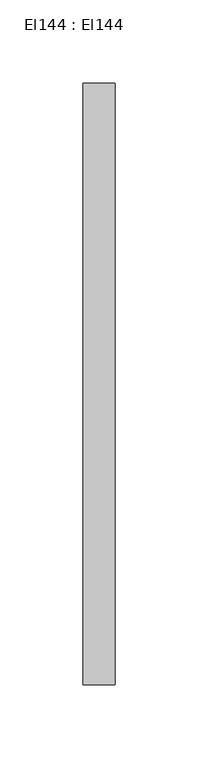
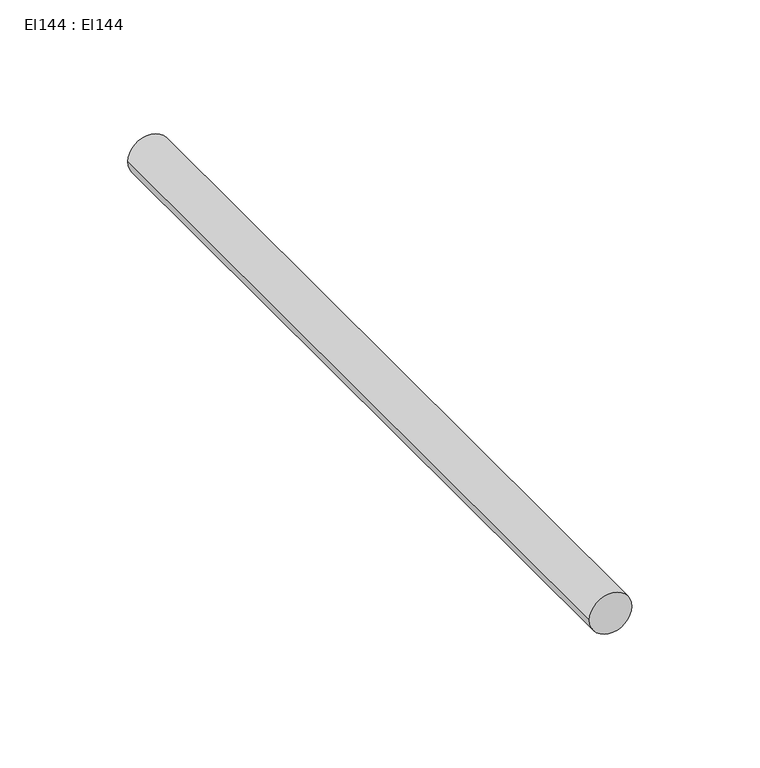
"""IFC4 building model written with IfcOpenShell, lengths in millimetres: cable carrier segment geometry, El144 : El144."""

from ifc_helpers import new_model, si_unit, point, frame, frame_2d, origin, place, context, project, spatial, circle_curve, trimmed, segment, composite_curve, outline, extrude, source, transform, mapped, element, save


def el144_el144_0ae4af96(model_context):
    return source(origin(), model_context, "Body", "SweptSolid", [
        extrude(outline(composite_curve([segment(trimmed(circle_curve(frame_2d((1200.0, 23680.0)), 9.5), [point((1200.0, 23670.5))], [point((1200.0, 23689.5))], False, "CARTESIAN"), True, "CONTINUOUS"), segment(trimmed(circle_curve(frame_2d((1200.0, 23680.0)), 9.5), [point((1200.0, 23689.5))], [point((1200.0, 23670.5))], False, "CARTESIAN"), True, "CONTINUOUS")], self_intersect=False)), frame((0.0, 9497.316, 0.0), z_axis=(0.0, 1.0, 0.0), x_axis=(0.0, 0.0, 1.0)), (0.0, 0.0, 1.0), 360.668),
    ])


if __name__ == "__main__":
    model = new_model("IFC4")
    model_context = context("Model", 3, world=origin())
    ifc_project = project(units=[si_unit("LENGTHUNIT", "METRE", prefix="MILLI")], contexts=[model_context])
    site = spatial("IfcSite", under=ifc_project)
    building = spatial("IfcBuilding", under=site)
    placement = place(None, origin())
    el144_el144_shape = el144_el144_0ae4af96(model_context)
    element("IfcCableCarrierSegment", 1, ObjectType="El144 : El144", at=placement, inside=building, context=model_context, shape_type="MappedRepresentation", body=[
        mapped(el144_el144_shape, transform((0.0, 0.0, 0.0), x_axis=(1.0, 0.0, 0.0), y_axis=(0.0, 1.0, 0.0), z_axis=(0.0, 0.0, 1.0))),
    ])
    save(model, "model.ifc")
